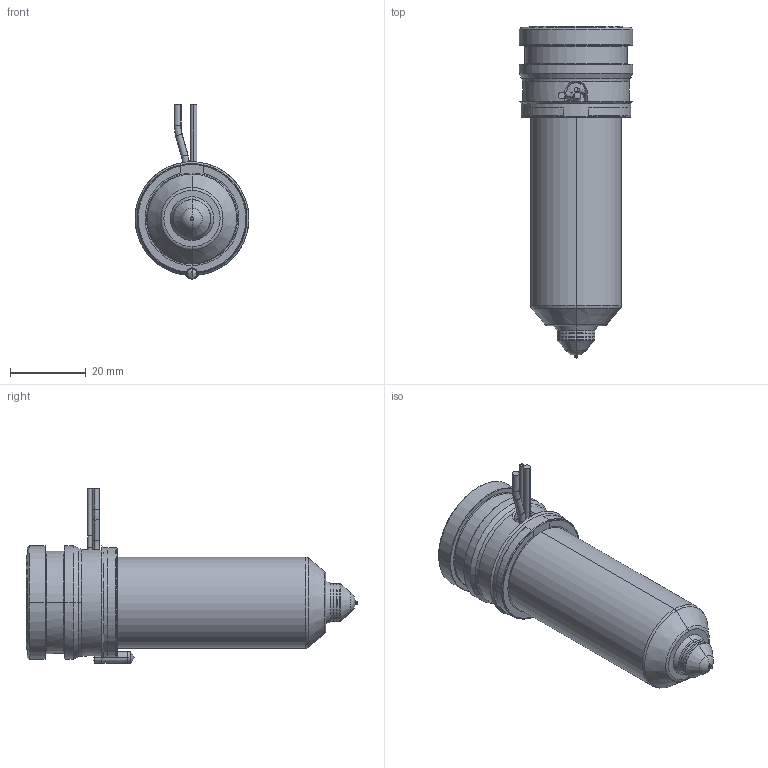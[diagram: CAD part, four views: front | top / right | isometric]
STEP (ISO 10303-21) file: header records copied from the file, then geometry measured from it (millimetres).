
FILE_DESCRIPTION((''),'2;1');
FILE_NAME('MPN-10-29-VX10-066-A','2026-02-05T12:40:20',('UPTIO'),('Thermoplay S.p.A.'),'CREO PARAMETRIC BY PTC INC, 2023494','CREO PARAMETRIC BY PTC INC, 2023494','');
FILE_SCHEMA(('CONFIG_CONTROL_DESIGN','SHAPE_APPEARANCE_LAYERS_GROUPS'));
Length unit declared in the file: millimetre
Products named in the file (1): MPN-10-29-VX10-066-A
Bounding box: 30 x 87.5 x 46 mm (x, y, z)
Volume: 27918.4 mm3; surface area: 27620.4 mm2
Topology: 2 solids, 3 shells, 557 faces, 1459 edges, 901 vertices
Faces by surface type: cylinder 182, plane 144, bspline 76, torus 72, cone 70, sphere 9, extrusion 4
Entity records: 29020 total; most frequent: CARTESIAN_POINT 12513, ORIENTED_EDGE 2906, DIRECTION 2711, EDGE_CURVE 1453, AXIS2_PLACEMENT_3D 1078, VERTEX_POINT 901, CIRCLE 600, EDGE_LOOP 586
